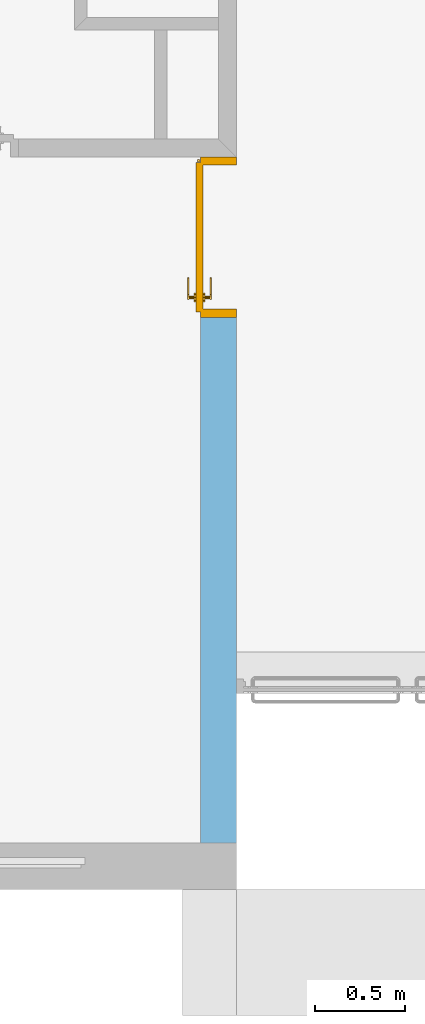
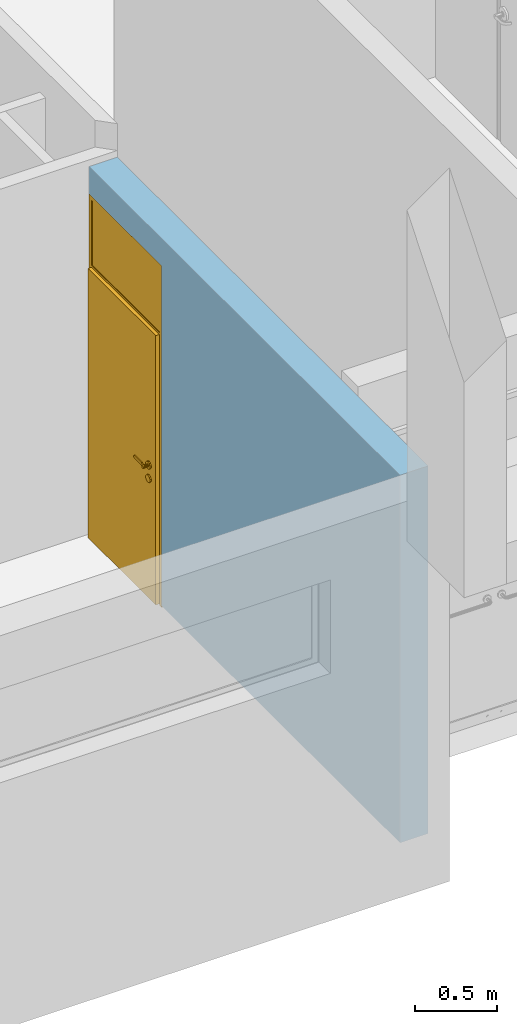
# One storey, part 36 of 45: 1 door, 1 opening, plus 1 element that does not belong to this part.
"""IFC2X3 building model written with IfcOpenShell, lengths in metres."""

from ifc_helpers import new_model, entity, si_unit, converted_unit, money_unit, direction, frame, origin_with_axes, place, context, subcontext, project, spatial, polyline, outline, extrude, faceted_brep, material, layer, layer_set, layer_usage, type_object, element, fill, save


model = new_model("IFC2X3")

# Units and contexts
model_context = context("Model", 3, precision=1e-05, world=origin_with_axes(), true_north=direction((0.0, 1.0)))
body_context = subcontext(model_context, "Body", "Model", "MODEL_VIEW")
ifc_project = project(units=[si_unit("LENGTHUNIT", "METRE"), si_unit("AREAUNIT", "SQUARE_METRE"), si_unit("VOLUMEUNIT", "CUBIC_METRE"), converted_unit("PLANEANGLEUNIT", "DEGREE", entity("IfcPlaneAngleMeasure", 0.0174532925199), si_unit("PLANEANGLEUNIT", "RADIAN"), dimensions=[0, 0, 0, 0, 0, 0, 0]), si_unit("SOLIDANGLEUNIT", "STERADIAN"), money_unit("EUR"), converted_unit("TIMEUNIT", "Year", entity("IfcTimeMeasure", 31556926.0), si_unit("TIMEUNIT", "SECOND"), dimensions=[0, 0, 0, 0, 0, 0, 0]), si_unit("MASSUNIT", "GRAM"), si_unit("THERMODYNAMICTEMPERATUREUNIT", "DEGREE_CELSIUS"), si_unit("LUMINOUSINTENSITYUNIT", "LUMEN")], contexts=[model_context])

# Site, building, storey
site_placement = place(None, origin_with_axes())
site = spatial("IfcSite", under=ifc_project, at=site_placement, Name="Site", CompositionType="ELEMENT")
building_placement = place(site_placement, origin_with_axes())
building = spatial("IfcBuilding", under=site, at=building_placement, Name="Bâtiment", CompositionType="ELEMENT")
storey_placement = place(building_placement, origin_with_axes())
storey = spatial("IfcBuildingStorey", under=building, at=storey_placement, Name="NIVEAU BAS GYMNASE", CompositionType="ELEMENT", Elevation=0.0)

# Wall, opening, door
ifc_material_1 = material(Name="Hachure solide* 3992800808")
ifc_layer_1 = layer(ifc_material_1, 0.02, ventilated="UNKNOWN")
ifc_material_2 = material(Name="Empty Fill 290923149")
ifc_layer_2 = layer(ifc_material_2, 0.08, ventilated="UNKNOWN")
ifc_material_3 = material(Name="Hachure solide* 4022991772")
ifc_layer_3 = layer(ifc_material_3, 0.1, ventilated="UNKNOWN")
ifc_layer_set = layer_set([ifc_layer_1, ifc_layer_2, ifc_layer_3], Name="•GYMN 10+10 0232896968")
ifc_layer_usage = layer_usage(ifc_layer_set, "AXIS2", "POSITIVE", -0.2)
wall_type = type_object("IfcWallType", Name="•GYMN 10+10 0232896968 200", PredefinedType="NOTDEFINED")
wall_placement = place(storey_placement, frame((49.938457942, 9.93881571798, 0.0), z_axis=(0.0, 0.0, 1.0), x_axis=(0.0, -1.0, 0.0)))
wall = element("IfcWallStandardCase", 1, at=wall_placement, inside=storey, type_object=wall_type, material=ifc_layer_usage, Name="Mur-004", context=body_context, shape_type="SweptSolid", body=[
    extrude(outline(polyline([(0.0, -0.2), (3.81, -0.2), (3.81, 0.0), (0.0, 0.0), (0.0, -0.2)])), origin_with_axes(), (0.0, 0.0, 1.0), 2.75),
])
opening_placement = place(wall_placement, frame((0.444999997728, 0.0, -0.01), z_axis=(0.0, 0.0, 1.0), x_axis=(1.0, 0.0, 0.0)))
opening = element("IfcOpeningElement", 2, at=opening_placement, cuts=wall, Name="Por-017", context=body_context, shape_type="SweptSolid", body=[
    extrude(outline(polyline([(-0.445, 0.0), (-0.445, -2.555), (0.445, -2.555), (0.445, 0.0), (-0.445, 0.0)])), frame((0.0, 0.2, 0.0), z_axis=(0.0, -1.0, 0.0), x_axis=(-1.0, 0.0, 0.0)), (0.0, 0.0, 1.0), 0.4),
])
ifc_material_4 = material(Name="Sans Trame")
door_style = type_object("IfcDoorStyle", Name="Porte int 1v", ConstructionType="NOTDEFINED", OperationType="NOTDEFINED", ParameterTakesPrecedence=False, Sizeable=False)
door_placement = place(opening_placement, frame((0.445000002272, 0.0, 0.0), z_axis=(0.0, 0.0, 1.0), x_axis=(-1.0, 0.0, 0.0)))
door = element("IfcDoor", 3, at=door_placement, inside=storey, type_object=door_style, material=ifc_material_4, Name="Por-017", OverallHeight=2.555, OverallWidth=0.89, context=body_context, shape_type="Brep", body=[
    faceted_brep([(0.89, 0.2, 0.0), (0.86, 0.2, 0.0), (0.86, 0.2, 2.525), (0.03, 0.2, 2.525), (0.03, 0.2, 0.0), (0.0, 0.2, 0.0), (0.0, 0.2, 2.555), (0.89, 0.2, 2.555), (0.89, 0.0, 0.0), (0.845, 0.0, 0.0), (0.845, 0.185, 0.0), (0.86, 0.185, 0.0), (0.86, 0.185, 2.525), (0.03, 0.185, 2.525), (0.03, 0.185, 0.0), (0.045, 0.185, 0.0), (0.045, 0.0, 0.0), (0.0, 0.0, 0.0), (0.0, 0.0, 2.555), (0.89, 0.0, 2.555), (0.045, 0.0, 2.51), (0.845, 0.0, 2.51), (0.845, 0.185, 2.51), (0.045, 0.185, 2.51)], [[[0, 1, 2, 3, 4, 5, 6, 7]], [[0, 8, 9, 10, 11, 1]], [[1, 11, 12, 2]], [[2, 12, 13, 3]], [[3, 13, 14, 4]], [[5, 4, 14, 15, 16, 17]], [[18, 6, 5, 17]], [[19, 7, 6, 18]], [[8, 0, 7, 19]], [[9, 8, 19, 18, 17, 16, 20, 21]], [[10, 9, 21, 22]], [[11, 10, 22, 23, 15, 14, 13, 12]], [[23, 20, 16, 15]], [[22, 21, 20, 23]]]),
    faceted_brep([(0.03, 0.185, 2.01), (0.86, 0.185, 2.01), (0.86, 0.0, 2.01), (0.03, 0.0, 2.01), (0.03, 0.185, 2.055), (0.86, 0.185, 2.055), (0.86, 0.0, 2.055), (0.03, 0.0, 2.055)], [[[0, 1, 2, 3]], [[0, 4, 5, 1]], [[1, 5, 6, 2]], [[3, 2, 6, 7]], [[4, 0, 3, 7]], [[5, 4, 7, 6]]]),
    faceted_brep([(0.03, 0.2, 2.025), (0.86, 0.2, 2.025), (0.86, 0.185, 2.025), (0.03, 0.185, 2.025), (0.03, 0.2, 2.04), (0.86, 0.2, 2.04), (0.86, 0.185, 2.04), (0.03, 0.185, 2.04)], [[[0, 1, 2, 3]], [[0, 4, 5, 1]], [[1, 5, 6, 2]], [[3, 2, 6, 7]], [[4, 0, 3, 7]], [[5, 4, 7, 6]]]),
    faceted_brep([(0.03, 0.195, 2.525), (0.03, 0.195, 2.04), (0.03, 0.185, 2.04), (0.03, 0.185, 2.525), (0.86, 0.195, 2.525), (0.86, 0.195, 2.04), (0.86, 0.185, 2.04), (0.86, 0.185, 2.525)], [[[0, 1, 2, 3]], [[0, 4, 5, 1]], [[1, 5, 6, 2]], [[3, 2, 6, 7]], [[4, 0, 3, 7]], [[5, 4, 7, 6]]]),
    faceted_brep([(0.862614, 0.208698, 0.31), (0.8625, 0.21, 0.31), (0.862614, 0.211302, 0.31), (0.862952, 0.212565, 0.31), (0.863505, 0.21375, 0.31), (0.864255, 0.214821, 0.31), (0.865179, 0.215745, 0.31), (0.86625, 0.216495, 0.31), (0.867435, 0.217048, 0.31), (0.868698, 0.217386, 0.31), (0.87, 0.2175, 0.31), (0.871302, 0.217386, 0.31), (0.872565, 0.217048, 0.31), (0.87375, 0.216495, 0.31), (0.874821, 0.215745, 0.31), (0.875745, 0.214821, 0.31), (0.876495, 0.21375, 0.31), (0.877048, 0.212565, 0.31), (0.877386, 0.211302, 0.31), (0.8775, 0.21, 0.31), (0.877386, 0.208698, 0.31), (0.877048, 0.207435, 0.31), (0.876495, 0.20625, 0.31), (0.875745, 0.205179, 0.31), (0.874821, 0.204255, 0.31), (0.87375, 0.203505, 0.31), (0.872565, 0.202952, 0.31), (0.871302, 0.202614, 0.31), (0.87, 0.2025, 0.31), (0.868698, 0.202614, 0.31), (0.867435, 0.202952, 0.31), (0.86625, 0.203505, 0.31), (0.865179, 0.204255, 0.31), (0.864255, 0.205179, 0.31), (0.863505, 0.20625, 0.31), (0.862952, 0.207435, 0.31), (0.862614, 0.208698, 0.39), (0.8625, 0.21, 0.39), (0.862614, 0.211302, 0.39), (0.862952, 0.212565, 0.39), (0.863505, 0.21375, 0.39), (0.864255, 0.214821, 0.39), (0.865179, 0.215745, 0.39), (0.86625, 0.216495, 0.39), (0.867435, 0.217048, 0.39), (0.868698, 0.217386, 0.39), (0.87, 0.2175, 0.39), (0.871302, 0.217386, 0.39), (0.872565, 0.217048, 0.39), (0.87375, 0.216495, 0.39), (0.874821, 0.215745, 0.39), (0.875745, 0.214821, 0.39), (0.876495, 0.21375, 0.39), (0.877048, 0.212565, 0.39), (0.877386, 0.211302, 0.39), (0.8775, 0.21, 0.39), (0.877386, 0.208698, 0.39), (0.877048, 0.207435, 0.39), (0.876495, 0.20625, 0.39), (0.875745, 0.205179, 0.39), (0.874821, 0.204255, 0.39), (0.87375, 0.203505, 0.39), (0.872565, 0.202952, 0.39), (0.871302, 0.202614, 0.39), (0.87, 0.2025, 0.39), (0.868698, 0.202614, 0.39), (0.867435, 0.202952, 0.39), (0.86625, 0.203505, 0.39), (0.865179, 0.204255, 0.39), (0.864255, 0.205179, 0.39), (0.863505, 0.20625, 0.39), (0.862952, 0.207435, 0.39)], [[[0, 1, 2, 3, 4, 5, 6, 7, 8, 9, 10, 11, 12, 13, 14, 15, 16, 17, 18, 19, 20, 21, 22, 23, 24, 25, 26, 27, 28, 29, 30, 31, 32, 33, 34, 35]], [[0, 36, 37, 1]], [[1, 37, 38, 2]], [[2, 38, 39, 3]], [[3, 39, 40, 4]], [[4, 40, 41, 5]], [[5, 41, 42, 6]], [[6, 42, 43, 7]], [[7, 43, 44, 8]], [[8, 44, 45, 9]], [[9, 45, 46, 10]], [[10, 46, 47, 11]], [[11, 47, 48, 12]], [[12, 48, 49, 13]], [[13, 49, 50, 14]], [[14, 50, 51, 15]], [[15, 51, 52, 16]], [[16, 52, 53, 17]], [[17, 53, 54, 18]], [[18, 54, 55, 19]], [[19, 55, 56, 20]], [[20, 56, 57, 21]], [[21, 57, 58, 22]], [[22, 58, 59, 23]], [[23, 59, 60, 24]], [[24, 60, 61, 25]], [[25, 61, 62, 26]], [[26, 62, 63, 27]], [[27, 63, 64, 28]], [[28, 64, 65, 29]], [[29, 65, 66, 30]], [[30, 66, 67, 31]], [[31, 67, 68, 32]], [[32, 68, 69, 33]], [[33, 69, 70, 34]], [[34, 70, 71, 35]], [[35, 71, 36, 0]], [[36, 71, 70, 69, 68, 67, 66, 65, 64, 63, 62, 61, 60, 59, 58, 57, 56, 55, 54, 53, 52, 51, 50, 49, 48, 47, 46, 45, 44, 43, 42, 41, 40, 39, 38, 37]]]),
    faceted_brep([(0.862614, 0.208698, 0.9775), (0.8625, 0.21, 0.9775), (0.862614, 0.211302, 0.9775), (0.862952, 0.212565, 0.9775), (0.863505, 0.21375, 0.9775), (0.864255, 0.214821, 0.9775), (0.865179, 0.215745, 0.9775), (0.86625, 0.216495, 0.9775), (0.867435, 0.217048, 0.9775), (0.868698, 0.217386, 0.9775), (0.87, 0.2175, 0.9775), (0.871302, 0.217386, 0.9775), (0.872565, 0.217048, 0.9775), (0.87375, 0.216495, 0.9775), (0.874821, 0.215745, 0.9775), (0.875745, 0.214821, 0.9775), (0.876495, 0.21375, 0.9775), (0.877048, 0.212565, 0.9775), (0.877386, 0.211302, 0.9775), (0.8775, 0.21, 0.9775), (0.877386, 0.208698, 0.9775), (0.877048, 0.207435, 0.9775), (0.876495, 0.20625, 0.9775), (0.875745, 0.205179, 0.9775), (0.874821, 0.204255, 0.9775), (0.87375, 0.203505, 0.9775), (0.872565, 0.202952, 0.9775), (0.871302, 0.202614, 0.9775), (0.87, 0.2025, 0.9775), (0.868698, 0.202614, 0.9775), (0.867435, 0.202952, 0.9775), (0.86625, 0.203505, 0.9775), (0.865179, 0.204255, 0.9775), (0.864255, 0.205179, 0.9775), (0.863505, 0.20625, 0.9775), (0.862952, 0.207435, 0.9775), (0.862614, 0.208698, 1.0575), (0.8625, 0.21, 1.0575), (0.862614, 0.211302, 1.0575), (0.862952, 0.212565, 1.0575), (0.863505, 0.21375, 1.0575), (0.864255, 0.214821, 1.0575), (0.865179, 0.215745, 1.0575), (0.86625, 0.216495, 1.0575), (0.867435, 0.217048, 1.0575), (0.868698, 0.217386, 1.0575), (0.87, 0.2175, 1.0575), (0.871302, 0.217386, 1.0575), (0.872565, 0.217048, 1.0575), (0.87375, 0.216495, 1.0575), (0.874821, 0.215745, 1.0575), (0.875745, 0.214821, 1.0575), (0.876495, 0.21375, 1.0575), (0.877048, 0.212565, 1.0575), (0.877386, 0.211302, 1.0575), (0.8775, 0.21, 1.0575), (0.877386, 0.208698, 1.0575), (0.877048, 0.207435, 1.0575), (0.876495, 0.20625, 1.0575), (0.875745, 0.205179, 1.0575), (0.874821, 0.204255, 1.0575), (0.87375, 0.203505, 1.0575), (0.872565, 0.202952, 1.0575), (0.871302, 0.202614, 1.0575), (0.87, 0.2025, 1.0575), (0.868698, 0.202614, 1.0575), (0.867435, 0.202952, 1.0575), (0.86625, 0.203505, 1.0575), (0.865179, 0.204255, 1.0575), (0.864255, 0.205179, 1.0575), (0.863505, 0.20625, 1.0575), (0.862952, 0.207435, 1.0575)], [[[0, 1, 2, 3, 4, 5, 6, 7, 8, 9, 10, 11, 12, 13, 14, 15, 16, 17, 18, 19, 20, 21, 22, 23, 24, 25, 26, 27, 28, 29, 30, 31, 32, 33, 34, 35]], [[0, 36, 37, 1]], [[1, 37, 38, 2]], [[2, 38, 39, 3]], [[3, 39, 40, 4]], [[4, 40, 41, 5]], [[5, 41, 42, 6]], [[6, 42, 43, 7]], [[7, 43, 44, 8]], [[8, 44, 45, 9]], [[9, 45, 46, 10]], [[10, 46, 47, 11]], [[11, 47, 48, 12]], [[12, 48, 49, 13]], [[13, 49, 50, 14]], [[14, 50, 51, 15]], [[15, 51, 52, 16]], [[16, 52, 53, 17]], [[17, 53, 54, 18]], [[18, 54, 55, 19]], [[19, 55, 56, 20]], [[20, 56, 57, 21]], [[21, 57, 58, 22]], [[22, 58, 59, 23]], [[23, 59, 60, 24]], [[24, 60, 61, 25]], [[25, 61, 62, 26]], [[26, 62, 63, 27]], [[27, 63, 64, 28]], [[28, 64, 65, 29]], [[29, 65, 66, 30]], [[30, 66, 67, 31]], [[31, 67, 68, 32]], [[32, 68, 69, 33]], [[33, 69, 70, 34]], [[34, 70, 71, 35]], [[35, 71, 36, 0]], [[36, 71, 70, 69, 68, 67, 66, 65, 64, 63, 62, 61, 60, 59, 58, 57, 56, 55, 54, 53, 52, 51, 50, 49, 48, 47, 46, 45, 44, 43, 42, 41, 40, 39, 38, 37]]]),
    faceted_brep([(0.862614, 0.208698, 1.645), (0.8625, 0.21, 1.645), (0.862614, 0.211302, 1.645), (0.862952, 0.212565, 1.645), (0.863505, 0.21375, 1.645), (0.864255, 0.214821, 1.645), (0.865179, 0.215745, 1.645), (0.86625, 0.216495, 1.645), (0.867435, 0.217048, 1.645), (0.868698, 0.217386, 1.645), (0.87, 0.2175, 1.645), (0.871302, 0.217386, 1.645), (0.872565, 0.217048, 1.645), (0.87375, 0.216495, 1.645), (0.874821, 0.215745, 1.645), (0.875745, 0.214821, 1.645), (0.876495, 0.21375, 1.645), (0.877048, 0.212565, 1.645), (0.877386, 0.211302, 1.645), (0.8775, 0.21, 1.645), (0.877386, 0.208698, 1.645), (0.877048, 0.207435, 1.645), (0.876495, 0.20625, 1.645), (0.875745, 0.205179, 1.645), (0.874821, 0.204255, 1.645), (0.87375, 0.203505, 1.645), (0.872565, 0.202952, 1.645), (0.871302, 0.202614, 1.645), (0.87, 0.2025, 1.645), (0.868698, 0.202614, 1.645), (0.867435, 0.202952, 1.645), (0.86625, 0.203505, 1.645), (0.865179, 0.204255, 1.645), (0.864255, 0.205179, 1.645), (0.863505, 0.20625, 1.645), (0.862952, 0.207435, 1.645), (0.862614, 0.208698, 1.725), (0.8625, 0.21, 1.725), (0.862614, 0.211302, 1.725), (0.862952, 0.212565, 1.725), (0.863505, 0.21375, 1.725), (0.864255, 0.214821, 1.725), (0.865179, 0.215745, 1.725), (0.86625, 0.216495, 1.725), (0.867435, 0.217048, 1.725), (0.868698, 0.217386, 1.725), (0.87, 0.2175, 1.725), (0.871302, 0.217386, 1.725), (0.872565, 0.217048, 1.725), (0.87375, 0.216495, 1.725), (0.874821, 0.215745, 1.725), (0.875745, 0.214821, 1.725), (0.876495, 0.21375, 1.725), (0.877048, 0.212565, 1.725), (0.877386, 0.211302, 1.725), (0.8775, 0.21, 1.725), (0.877386, 0.208698, 1.725), (0.877048, 0.207435, 1.725), (0.876495, 0.20625, 1.725), (0.875745, 0.205179, 1.725), (0.874821, 0.204255, 1.725), (0.87375, 0.203505, 1.725), (0.872565, 0.202952, 1.725), (0.871302, 0.202614, 1.725), (0.87, 0.2025, 1.725), (0.868698, 0.202614, 1.725), (0.867435, 0.202952, 1.725), (0.86625, 0.203505, 1.725), (0.865179, 0.204255, 1.725), (0.864255, 0.205179, 1.725), (0.863505, 0.20625, 1.725), (0.862952, 0.207435, 1.725)], [[[0, 1, 2, 3, 4, 5, 6, 7, 8, 9, 10, 11, 12, 13, 14, 15, 16, 17, 18, 19, 20, 21, 22, 23, 24, 25, 26, 27, 28, 29, 30, 31, 32, 33, 34, 35]], [[0, 36, 37, 1]], [[1, 37, 38, 2]], [[2, 38, 39, 3]], [[3, 39, 40, 4]], [[4, 40, 41, 5]], [[5, 41, 42, 6]], [[6, 42, 43, 7]], [[7, 43, 44, 8]], [[8, 44, 45, 9]], [[9, 45, 46, 10]], [[10, 46, 47, 11]], [[11, 47, 48, 12]], [[12, 48, 49, 13]], [[13, 49, 50, 14]], [[14, 50, 51, 15]], [[15, 51, 52, 16]], [[16, 52, 53, 17]], [[17, 53, 54, 18]], [[18, 54, 55, 19]], [[19, 55, 56, 20]], [[20, 56, 57, 21]], [[21, 57, 58, 22]], [[22, 58, 59, 23]], [[23, 59, 60, 24]], [[24, 60, 61, 25]], [[25, 61, 62, 26]], [[26, 62, 63, 27]], [[27, 63, 64, 28]], [[28, 64, 65, 29]], [[29, 65, 66, 30]], [[30, 66, 67, 31]], [[31, 67, 68, 32]], [[32, 68, 69, 33]], [[33, 69, 70, 34]], [[34, 70, 71, 35]], [[35, 71, 36, 0]], [[36, 71, 70, 69, 68, 67, 66, 65, 64, 63, 62, 61, 60, 59, 58, 57, 56, 55, 54, 53, 52, 51, 50, 49, 48, 47, 46, 45, 44, 43, 42, 41, 40, 39, 38, 37]]]),
    faceted_brep([(0.86, 0.225, 0.01), (0.86, 0.185, 0.01), (0.03, 0.185, 0.01), (0.03, 0.225, 0.01), (0.86, 0.225, 2.025), (0.86, 0.185, 2.025), (0.03, 0.185, 2.025), (0.03, 0.225, 2.025)], [[[0, 1, 2, 3]], [[4, 5, 1, 0]], [[1, 5, 6, 2]], [[3, 2, 6, 7]], [[0, 3, 7, 4]], [[7, 6, 5, 4]]]),
    faceted_brep([(0.104122, 0.146, 1.01809), (0.11, 0.146, 1.02), (0.11, 0.1461, 1.02), (0.104122, 0.1461, 1.01809), (0.100489, 0.146, 1.01309), (0.100489, 0.146, 1.00691), (0.104122, 0.146, 1.00191), (0.11, 0.146, 1.0), (0.115878, 0.146, 1.00191), (0.119511, 0.146, 1.00691), (0.119511, 0.146, 1.01309), (0.115878, 0.146, 1.01809), (0.115878, 0.1461, 1.01809), (0.11, 0.1749, 1.02), (0.104122, 0.1749, 1.01809), (0.100489, 0.1461, 1.01309), (0.100489, 0.1461, 1.00691), (0.104122, 0.1461, 1.00191), (0.11, 0.1461, 1.0), (0.115878, 0.1461, 1.00191), (0.119511, 0.1461, 1.00691), (0.119511, 0.1461, 1.01309), (0.115878, 0.1749, 1.01809), (0.11, 0.175, 1.02), (0.104122, 0.175, 1.01809), (0.100489, 0.1749, 1.01309), (0.100489, 0.1749, 1.00691), (0.104122, 0.1749, 1.00191), (0.11, 0.1749, 1.0), (0.115878, 0.1749, 1.00191), (0.119511, 0.1749, 1.00691), (0.119511, 0.1749, 1.01309), (0.115878, 0.175, 1.01809), (0.119511, 0.175, 1.01309), (0.119511, 0.175, 1.00691), (0.115878, 0.175, 1.00191), (0.11, 0.175, 1.0), (0.104122, 0.175, 1.00191), (0.100489, 0.175, 1.00691), (0.100489, 0.175, 1.01309)], [[[0, 1, 2, 3]], [[1, 0, 4, 5, 6, 7, 8, 9, 10, 11]], [[1, 11, 12, 2]], [[3, 2, 13, 14]], [[4, 0, 3, 15]], [[5, 4, 15, 16]], [[6, 5, 16, 17]], [[7, 6, 17, 18]], [[8, 7, 18, 19]], [[9, 8, 19, 20]], [[10, 9, 20, 21]], [[11, 10, 21, 12]], [[2, 12, 22, 13]], [[14, 13, 23, 24]], [[15, 3, 14, 25]], [[16, 15, 25, 26]], [[17, 16, 26, 27]], [[18, 17, 27, 28]], [[19, 18, 28, 29]], [[20, 19, 29, 30]], [[21, 20, 30, 31]], [[12, 21, 31, 22]], [[13, 22, 32, 23]], [[23, 32, 33, 34, 35, 36, 37, 38, 39, 24]], [[25, 14, 24, 39]], [[26, 25, 39, 38]], [[27, 26, 38, 37]], [[28, 27, 37, 36]], [[29, 28, 36, 35]], [[30, 29, 35, 34]], [[31, 30, 34, 33]], [[22, 31, 33, 32]]]),
    faceted_brep([(0.094306, 0.175, 1.031601), (0.11, 0.175, 1.0367), (0.11, 0.1751, 1.0368), (0.094247, 0.1751, 1.031682), (0.084607, 0.175, 1.018251), (0.084607, 0.175, 1.001749), (0.094306, 0.175, 0.988399), (0.11, 0.175, 0.9833), (0.125694, 0.175, 0.988399), (0.135393, 0.175, 1.001749), (0.135393, 0.175, 1.018251), (0.125694, 0.175, 1.031601), (0.125753, 0.1751, 1.031682), (0.11, 0.1849, 1.0369), (0.094189, 0.1849, 1.031763), (0.084512, 0.1751, 1.018282), (0.084512, 0.1751, 1.001718), (0.094247, 0.1751, 0.988318), (0.11, 0.1751, 0.9832), (0.125753, 0.1751, 0.988318), (0.135488, 0.1751, 1.001718), (0.135488, 0.1751, 1.018282), (0.125811, 0.1849, 1.031763), (0.11, 0.185, 1.037), (0.09413, 0.185, 1.031843), (0.084417, 0.1849, 1.018313), (0.084417, 0.1849, 1.001687), (0.094189, 0.1849, 0.988237), (0.11, 0.1849, 0.9831), (0.125811, 0.1849, 0.988237), (0.135583, 0.1849, 1.001687), (0.135583, 0.1849, 1.018313), (0.12587, 0.185, 1.031843), (0.135679, 0.185, 1.018343), (0.135679, 0.185, 1.001657), (0.12587, 0.185, 0.988157), (0.11, 0.185, 0.983), (0.09413, 0.185, 0.988157), (0.084321, 0.185, 1.001657), (0.084321, 0.185, 1.018343)], [[[0, 1, 2, 3]], [[1, 0, 4, 5, 6, 7, 8, 9, 10, 11]], [[1, 11, 12, 2]], [[3, 2, 13, 14]], [[4, 0, 3, 15]], [[5, 4, 15, 16]], [[6, 5, 16, 17]], [[7, 6, 17, 18]], [[8, 7, 18, 19]], [[9, 8, 19, 20]], [[10, 9, 20, 21]], [[11, 10, 21, 12]], [[2, 12, 22, 13]], [[14, 13, 23, 24]], [[15, 3, 14, 25]], [[16, 15, 25, 26]], [[17, 16, 26, 27]], [[18, 17, 27, 28]], [[19, 18, 28, 29]], [[20, 19, 29, 30]], [[21, 20, 30, 31]], [[12, 21, 31, 22]], [[13, 22, 32, 23]], [[23, 32, 33, 34, 35, 36, 37, 38, 39, 24]], [[25, 14, 24, 39]], [[26, 25, 39, 38]], [[27, 26, 38, 37]], [[28, 27, 37, 36]], [[29, 28, 36, 35]], [[30, 29, 35, 34]], [[31, 30, 34, 33]], [[22, 31, 33, 32]]]),
    faceted_brep([(0.09413, 0.175, 0.931843), (0.11, 0.175, 0.937), (0.11, 0.1751, 0.937), (0.09413, 0.1751, 0.931843), (0.084321, 0.175, 0.918343), (0.084321, 0.175, 0.901657), (0.09413, 0.175, 0.888157), (0.11, 0.175, 0.883), (0.12587, 0.175, 0.888157), (0.135679, 0.175, 0.901657), (0.135679, 0.175, 0.918343), (0.12587, 0.175, 0.931843), (0.12587, 0.1751, 0.931843), (0.11, 0.1849, 0.937), (0.09413, 0.1849, 0.931843), (0.084321, 0.1751, 0.918343), (0.084321, 0.1751, 0.901657), (0.09413, 0.1751, 0.888157), (0.11, 0.1751, 0.883), (0.12587, 0.1751, 0.888157), (0.135679, 0.1751, 0.901657), (0.135679, 0.1751, 0.918343), (0.12587, 0.1849, 0.931843), (0.11, 0.185, 0.937), (0.09413, 0.185, 0.931843), (0.084321, 0.1849, 0.918343), (0.084321, 0.1849, 0.901657), (0.09413, 0.1849, 0.888157), (0.11, 0.1849, 0.883), (0.12587, 0.1849, 0.888157), (0.135679, 0.1849, 0.901657), (0.135679, 0.1849, 0.918343), (0.12587, 0.185, 0.931843), (0.135679, 0.185, 0.918343), (0.135679, 0.185, 0.901657), (0.12587, 0.185, 0.888157), (0.11, 0.185, 0.883), (0.09413, 0.185, 0.888157), (0.084321, 0.185, 0.901657), (0.084321, 0.185, 0.918343)], [[[0, 1, 2, 3]], [[1, 0, 4, 5, 6, 7, 8, 9, 10, 11]], [[1, 11, 12, 2]], [[3, 2, 13, 14]], [[4, 0, 3, 15]], [[5, 4, 15, 16]], [[6, 5, 16, 17]], [[7, 6, 17, 18]], [[8, 7, 18, 19]], [[9, 8, 19, 20]], [[10, 9, 20, 21]], [[11, 10, 21, 12]], [[2, 12, 22, 13]], [[14, 13, 23, 24]], [[15, 3, 14, 25]], [[16, 15, 25, 26]], [[17, 16, 26, 27]], [[18, 17, 27, 28]], [[19, 18, 28, 29]], [[20, 19, 29, 30]], [[21, 20, 30, 31]], [[12, 21, 31, 22]], [[13, 22, 32, 23]], [[23, 32, 33, 34, 35, 36, 37, 38, 39, 24]], [[25, 14, 24, 39]], [[26, 25, 39, 38]], [[27, 26, 38, 37]], [[28, 27, 37, 36]], [[29, 28, 36, 35]], [[30, 29, 35, 34]], [[31, 30, 34, 33]], [[22, 31, 33, 32]]]),
    faceted_brep([(0.2125, 0.146, 1.01575), (0.217683, 0.146, 1.017394), (0.217683, 0.1385, 1.017394), (0.2125, 0.1385, 1.01575), (0.132445, 0.146, 1.01575), (0.121226, 0.146, 1.009264), (0.118925, 0.146, 1.003152), (0.113616, 0.146, 0.999347), (0.107088, 0.146, 0.999133), (0.101542, 0.146, 1.002582), (0.098846, 0.146, 1.008532), (0.09991, 0.146, 1.014976), (0.104375, 0.146, 1.019743), (0.127755, 0.146, 1.03325), (0.2125, 0.146, 1.03325), (0.217683, 0.146, 1.031606), (0.220894, 0.146, 1.027219), (0.220894, 0.146, 1.021781), (0.220894, 0.1385, 1.021781), (0.220894, 0.1385, 1.027219), (0.217683, 0.1385, 1.031606), (0.2125, 0.1385, 1.03325), (0.127755, 0.1385, 1.03325), (0.104375, 0.1385, 1.019743), (0.09991, 0.1385, 1.014976), (0.098846, 0.1385, 1.008532), (0.101542, 0.1385, 1.002582), (0.107088, 0.1385, 0.999133), (0.113616, 0.1385, 0.999347), (0.118925, 0.1385, 1.003152), (0.121226, 0.1385, 1.009264), (0.132445, 0.1385, 1.01575)], [[[0, 1, 2, 3]], [[0, 4, 5, 6, 7, 8, 9, 10, 11, 12, 13, 14, 15, 16, 17, 1]], [[1, 17, 18, 2]], [[3, 2, 18, 19, 20, 21, 22, 23, 24, 25, 26, 27, 28, 29, 30, 31]], [[4, 0, 3, 31]], [[5, 4, 31, 30]], [[6, 5, 30, 29]], [[7, 6, 29, 28]], [[8, 7, 28, 27]], [[9, 8, 27, 26]], [[10, 9, 26, 25]], [[11, 10, 25, 24]], [[12, 11, 24, 23]], [[13, 12, 23, 22]], [[14, 13, 22, 21]], [[15, 14, 21, 20]], [[16, 15, 20, 19]], [[17, 16, 19, 18]]]),
    faceted_brep([(0.104122, 0.264, 1.01809), (0.104122, 0.2639, 1.01809), (0.11, 0.2639, 1.02), (0.11, 0.264, 1.02), (0.100489, 0.264, 1.01309), (0.100489, 0.2639, 1.01309), (0.104122, 0.2351, 1.01809), (0.11, 0.2351, 1.02), (0.115878, 0.2639, 1.01809), (0.115878, 0.264, 1.01809), (0.119511, 0.264, 1.01309), (0.119511, 0.264, 1.00691), (0.115878, 0.264, 1.00191), (0.11, 0.264, 1.0), (0.104122, 0.264, 1.00191), (0.100489, 0.264, 1.00691), (0.100489, 0.2639, 1.00691), (0.100489, 0.2351, 1.01309), (0.104122, 0.235, 1.01809), (0.11, 0.235, 1.02), (0.115878, 0.2351, 1.01809), (0.119511, 0.2639, 1.01309), (0.119511, 0.2639, 1.00691), (0.115878, 0.2639, 1.00191), (0.11, 0.2639, 1.0), (0.104122, 0.2639, 1.00191), (0.100489, 0.2351, 1.00691), (0.100489, 0.235, 1.01309), (0.100489, 0.235, 1.00691), (0.104122, 0.235, 1.00191), (0.11, 0.235, 1.0), (0.115878, 0.235, 1.00191), (0.119511, 0.235, 1.00691), (0.119511, 0.235, 1.01309), (0.115878, 0.235, 1.01809), (0.119511, 0.2351, 1.01309), (0.119511, 0.2351, 1.00691), (0.115878, 0.2351, 1.00191), (0.11, 0.2351, 1.0), (0.104122, 0.2351, 1.00191)], [[[0, 1, 2, 3]], [[4, 5, 1, 0]], [[1, 6, 7, 2]], [[3, 2, 8, 9]], [[3, 9, 10, 11, 12, 13, 14, 15, 4, 0]], [[15, 16, 5, 4]], [[5, 17, 6, 1]], [[6, 18, 19, 7]], [[2, 7, 20, 8]], [[9, 8, 21, 10]], [[10, 21, 22, 11]], [[11, 22, 23, 12]], [[12, 23, 24, 13]], [[13, 24, 25, 14]], [[14, 25, 16, 15]], [[16, 26, 17, 5]], [[17, 27, 18, 6]], [[19, 18, 27, 28, 29, 30, 31, 32, 33, 34]], [[7, 19, 34, 20]], [[8, 20, 35, 21]], [[21, 35, 36, 22]], [[22, 36, 37, 23]], [[23, 37, 38, 24]], [[24, 38, 39, 25]], [[25, 39, 26, 16]], [[26, 28, 27, 17]], [[39, 29, 28, 26]], [[38, 30, 29, 39]], [[37, 31, 30, 38]], [[36, 32, 31, 37]], [[35, 33, 32, 36]], [[20, 34, 33, 35]]]),
    faceted_brep([(0.094306, 0.235, 1.031601), (0.094247, 0.2349, 1.031682), (0.11, 0.2349, 1.0368), (0.11, 0.235, 1.0367), (0.084607, 0.235, 1.018251), (0.084512, 0.2349, 1.018282), (0.094189, 0.2251, 1.031763), (0.11, 0.2251, 1.0369), (0.125753, 0.2349, 1.031682), (0.125694, 0.235, 1.031601), (0.135393, 0.235, 1.018251), (0.135393, 0.235, 1.001749), (0.125694, 0.235, 0.988399), (0.11, 0.235, 0.9833), (0.094306, 0.235, 0.988399), (0.084607, 0.235, 1.001749), (0.084512, 0.2349, 1.001718), (0.084417, 0.2251, 1.018313), (0.09413, 0.225, 1.031843), (0.11, 0.225, 1.037), (0.125811, 0.2251, 1.031763), (0.135488, 0.2349, 1.018282), (0.135488, 0.2349, 1.001718), (0.125753, 0.2349, 0.988318), (0.11, 0.2349, 0.9832), (0.094247, 0.2349, 0.988318), (0.084417, 0.2251, 1.001687), (0.084321, 0.225, 1.018343), (0.084321, 0.225, 1.001657), (0.09413, 0.225, 0.988157), (0.11, 0.225, 0.983), (0.12587, 0.225, 0.988157), (0.135679, 0.225, 1.001657), (0.135679, 0.225, 1.018343), (0.12587, 0.225, 1.031843), (0.135583, 0.2251, 1.018313), (0.135583, 0.2251, 1.001687), (0.125811, 0.2251, 0.988237), (0.11, 0.2251, 0.9831), (0.094189, 0.2251, 0.988237)], [[[0, 1, 2, 3]], [[4, 5, 1, 0]], [[1, 6, 7, 2]], [[3, 2, 8, 9]], [[3, 9, 10, 11, 12, 13, 14, 15, 4, 0]], [[15, 16, 5, 4]], [[5, 17, 6, 1]], [[6, 18, 19, 7]], [[2, 7, 20, 8]], [[9, 8, 21, 10]], [[10, 21, 22, 11]], [[11, 22, 23, 12]], [[12, 23, 24, 13]], [[13, 24, 25, 14]], [[14, 25, 16, 15]], [[16, 26, 17, 5]], [[17, 27, 18, 6]], [[19, 18, 27, 28, 29, 30, 31, 32, 33, 34]], [[7, 19, 34, 20]], [[8, 20, 35, 21]], [[21, 35, 36, 22]], [[22, 36, 37, 23]], [[23, 37, 38, 24]], [[24, 38, 39, 25]], [[25, 39, 26, 16]], [[26, 28, 27, 17]], [[39, 29, 28, 26]], [[38, 30, 29, 39]], [[37, 31, 30, 38]], [[36, 32, 31, 37]], [[35, 33, 32, 36]], [[20, 34, 33, 35]]]),
    faceted_brep([(0.09413, 0.235, 0.931843), (0.09413, 0.2349, 0.931843), (0.11, 0.2349, 0.937), (0.11, 0.235, 0.937), (0.084321, 0.235, 0.918343), (0.084321, 0.2349, 0.918343), (0.09413, 0.2251, 0.931843), (0.11, 0.2251, 0.937), (0.12587, 0.2349, 0.931843), (0.12587, 0.235, 0.931843), (0.135679, 0.235, 0.918343), (0.135679, 0.235, 0.901657), (0.12587, 0.235, 0.888157), (0.11, 0.235, 0.883), (0.09413, 0.235, 0.888157), (0.084321, 0.235, 0.901657), (0.084321, 0.2349, 0.901657), (0.084321, 0.2251, 0.918343), (0.09413, 0.225, 0.931843), (0.11, 0.225, 0.937), (0.12587, 0.2251, 0.931843), (0.135679, 0.2349, 0.918343), (0.135679, 0.2349, 0.901657), (0.12587, 0.2349, 0.888157), (0.11, 0.2349, 0.883), (0.09413, 0.2349, 0.888157), (0.084321, 0.2251, 0.901657), (0.084321, 0.225, 0.918343), (0.084321, 0.225, 0.901657), (0.09413, 0.225, 0.888157), (0.11, 0.225, 0.883), (0.12587, 0.225, 0.888157), (0.135679, 0.225, 0.901657), (0.135679, 0.225, 0.918343), (0.12587, 0.225, 0.931843), (0.135679, 0.2251, 0.918343), (0.135679, 0.2251, 0.901657), (0.12587, 0.2251, 0.888157), (0.11, 0.2251, 0.883), (0.09413, 0.2251, 0.888157)], [[[0, 1, 2, 3]], [[4, 5, 1, 0]], [[1, 6, 7, 2]], [[3, 2, 8, 9]], [[3, 9, 10, 11, 12, 13, 14, 15, 4, 0]], [[15, 16, 5, 4]], [[5, 17, 6, 1]], [[6, 18, 19, 7]], [[2, 7, 20, 8]], [[9, 8, 21, 10]], [[10, 21, 22, 11]], [[11, 22, 23, 12]], [[12, 23, 24, 13]], [[13, 24, 25, 14]], [[14, 25, 16, 15]], [[16, 26, 17, 5]], [[17, 27, 18, 6]], [[19, 18, 27, 28, 29, 30, 31, 32, 33, 34]], [[7, 19, 34, 20]], [[8, 20, 35, 21]], [[21, 35, 36, 22]], [[22, 36, 37, 23]], [[23, 37, 38, 24]], [[24, 38, 39, 25]], [[25, 39, 26, 16]], [[26, 28, 27, 17]], [[39, 29, 28, 26]], [[38, 30, 29, 39]], [[37, 31, 30, 38]], [[36, 32, 31, 37]], [[35, 33, 32, 36]], [[20, 34, 33, 35]]]),
    faceted_brep([(0.2125, 0.264, 1.01575), (0.2125, 0.2715, 1.01575), (0.217683, 0.2715, 1.017394), (0.217683, 0.264, 1.017394), (0.132445, 0.264, 1.01575), (0.132445, 0.2715, 1.01575), (0.121226, 0.2715, 1.009264), (0.118925, 0.2715, 1.003152), (0.113616, 0.2715, 0.999347), (0.107088, 0.2715, 0.999133), (0.101542, 0.2715, 1.002582), (0.098846, 0.2715, 1.008532), (0.09991, 0.2715, 1.014976), (0.104375, 0.2715, 1.019743), (0.127755, 0.2715, 1.03325), (0.2125, 0.2715, 1.03325), (0.217683, 0.2715, 1.031606), (0.220894, 0.2715, 1.027219), (0.220894, 0.2715, 1.021781), (0.220894, 0.264, 1.021781), (0.220894, 0.264, 1.027219), (0.217683, 0.264, 1.031606), (0.2125, 0.264, 1.03325), (0.127755, 0.264, 1.03325), (0.104375, 0.264, 1.019743), (0.09991, 0.264, 1.014976), (0.098846, 0.264, 1.008532), (0.101542, 0.264, 1.002582), (0.107088, 0.264, 0.999133), (0.113616, 0.264, 0.999347), (0.118925, 0.264, 1.003152), (0.121226, 0.264, 1.009264)], [[[0, 1, 2, 3]], [[4, 5, 1, 0]], [[1, 5, 6, 7, 8, 9, 10, 11, 12, 13, 14, 15, 16, 17, 18, 2]], [[3, 2, 18, 19]], [[0, 3, 19, 20, 21, 22, 23, 24, 25, 26, 27, 28, 29, 30, 31, 4]], [[31, 6, 5, 4]], [[30, 7, 6, 31]], [[29, 8, 7, 30]], [[28, 9, 8, 29]], [[27, 10, 9, 28]], [[26, 11, 10, 27]], [[25, 12, 11, 26]], [[24, 13, 12, 25]], [[23, 14, 13, 24]], [[22, 15, 14, 23]], [[21, 16, 15, 22]], [[20, 17, 16, 21]], [[19, 18, 17, 20]]]),
])
fill(opening, door)

save(model, "model.ifc")
